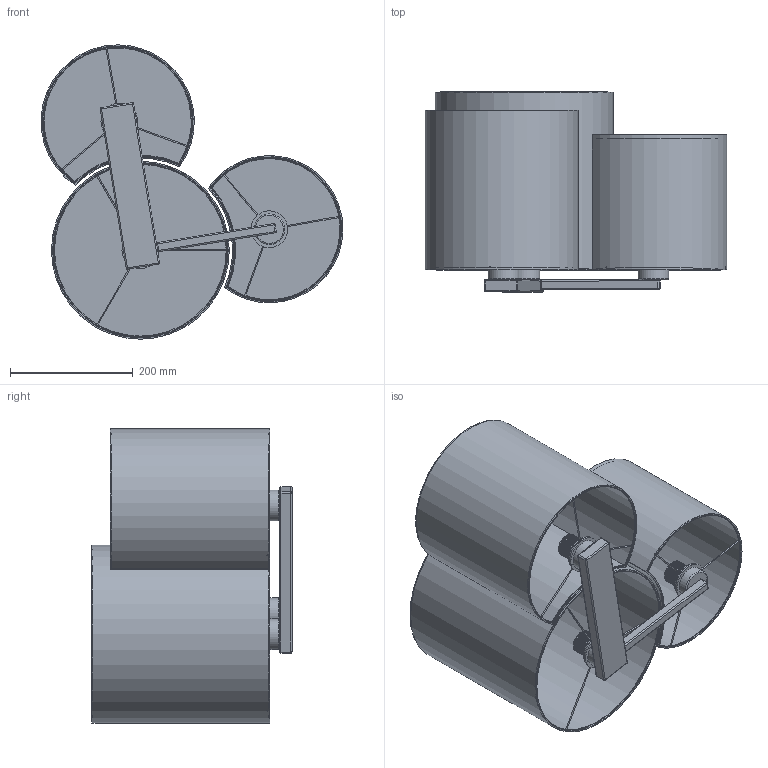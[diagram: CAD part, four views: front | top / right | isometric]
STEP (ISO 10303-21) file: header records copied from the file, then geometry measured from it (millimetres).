
FILE_DESCRIPTION(/* description */ (''),/* implementation_level */ '2;1');
FILE_NAME(/* name */ 'C:/Users/kubaw/OneDrive/Pulpit/TK_lighting - modele 2/OK/4392_MONA v8/4392_MONA v8.step',/* time_stamp */ '2021-03-31T19:52:00+02:00',/* author */ (''),/* organization */ (''),/* preprocessor_version */ 'ST-DEVELOPER v18.1',/* originating_system */ 'Autodesk Translation Framework v9.10.0.1330',/* authorisation */ '');
FILE_SCHEMA (('AUTOMOTIVE_DESIGN { 1 0 10303 214 3 1 1 }'));
Length unit declared in the file: millimetre
Products named in the file (2): 4392_MONA; MOCOWANIE_MONA
Assembly tree (3 placements, depth 2):
  4392_MONA
    MOCOWANIE_MONA  x3
Bounding box: 492.13 x 326 x 479.76 mm (x, y, z)
Volume: 1319996.1 mm3; surface area: 1709906 mm2
Topology: 55 solids, 55 shells, 534 faces, 1042 edges, 645 vertices
Faces by surface type: cylinder 261, plane 189, sphere 46, bspline 22, torus 16
Full cylindrical faces by diameter (mm): 2 x20, 3 x15, 32 x3, 34.939 x39, 42 x3, 46 x3, 50 x3, 56 x3, 60 x3, 280 x1, 282 x1, 284 x1, 288 x1, 290 x1
Entity records: 14290 total; most frequent: CARTESIAN_POINT 8622, DIRECTION 1210, ORIENTED_EDGE 1048, EDGE_CURVE 524, AXIS2_PLACEMENT_3D 503, VERTEX_POINT 321, EDGE_LOOP 299, FACE_OUTER_BOUND 278
